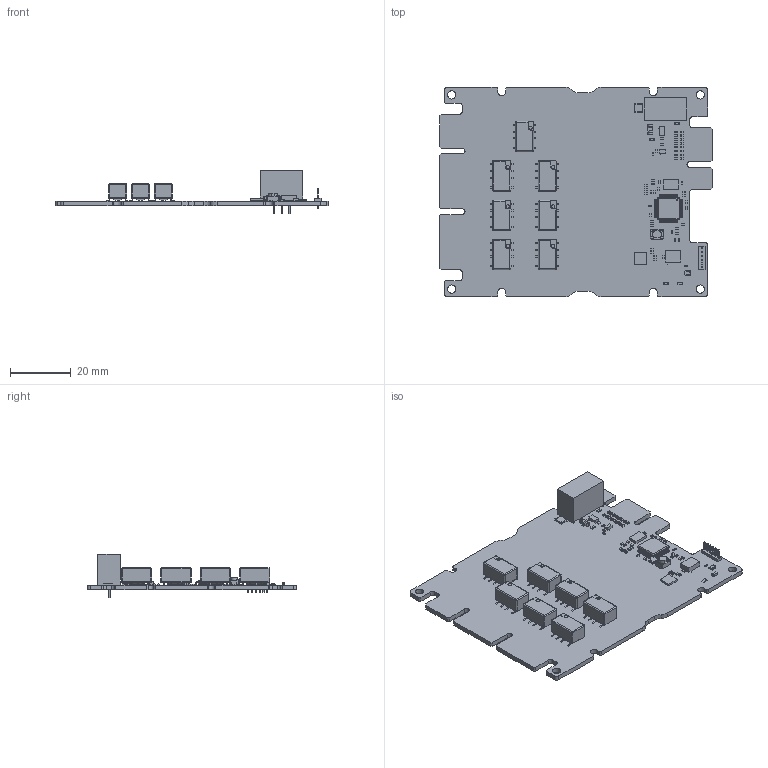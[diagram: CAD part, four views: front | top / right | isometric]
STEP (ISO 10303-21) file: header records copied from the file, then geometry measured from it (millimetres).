
FILE_DESCRIPTION(('Open CASCADE Model'),'2;1');
FILE_NAME('Open CASCADE Shape Model','2026-08-19T11:34:13',('Author'),( 'Open CASCADE'),'Open CASCADE STEP processor 7.5','Open CASCADE 7.5' ,'Unknown');
FILE_SCHEMA(('AUTOMOTIVE_DESIGN { 1 0 10303 214 1 1 1 1 }'));
Length unit declared in the file: millimetre
Products named in the file (204): Open CASCADE STEP translator 7.5 409; Open CASCADE STEP translator 7.5 410; Open CASCADE STEP translator 7.5 411; Open CASCADE STEP translator 7.5 412; Open CASCADE STEP translator 7.5 413; Open CASCADE STEP translator 7.5 414; Open CASCADE STEP translator 7.5 415; Open CASCADE STEP translator 7.5 416; Open CASCADE STEP translator 7.5 417; Open CASCADE STEP translator 7.5 418; Open CASCADE STEP translator 7.5 419; Open CASCADE STEP translator 7.5 420; Open CASCADE STEP translator 7.5 421; Open CASCADE STEP translator 7.5 422; Open CASCADE STEP translator 7.5 423; Open CASCADE STEP translator 7.5 424; Open CASCADE STEP translator 7.5 425; Open CASCADE STEP translator 7.5 426; Open CASCADE STEP translator 7.5 427; Open CASCADE STEP translator 7.5 428; Open CASCADE STEP translator 7.5 429; Open CASCADE STEP translator 7.5 430; Open CASCADE STEP translator 7.5 431; Open CASCADE STEP translator 7.5 432; Open CASCADE STEP translator 7.5 433; Open CASCADE STEP translator 7.5 434; Open CASCADE STEP translator 7.5 435; Open CASCADE STEP translator 7.5 436; Open CASCADE STEP translator 7.5 437; Open CASCADE STEP translator 7.5 438; Open CASCADE STEP translator 7.5 439; Open CASCADE STEP translator 7.5 440; Open CASCADE STEP translator 7.5 441; Open CASCADE STEP translator 7.5 442; Open CASCADE STEP translator 7.5 443; Open CASCADE STEP translator 7.5 444; Open CASCADE STEP translator 7.5 445; Open CASCADE STEP translator 7.5 446; Open CASCADE STEP translator 7.5 447; Open CASCADE STEP translator 7.5 448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
Bounding box: 90 x 69 x 14.2 mm (x, y, z)
Volume: 12446.2 mm3; surface area: 15967.7 mm2
Topology: 271 solids, 271 shells, 3431 faces, 8184 edges, 5385 vertices
Faces by surface type: plane 2916, cylinder 447, sphere 52, torus 8, bspline 4, cone 4
Full cylindrical faces by diameter (mm): 0.08 x1, 0.289 x1, 0.3 x6, 0.5 x3, 0.6 x6, 0.94 x3, 1.4 x1, 1.6 x2, 2.7 x4
Entity records: 106508 total; most frequent: CARTESIAN_POINT 17084, ORIENTED_EDGE 16368, DIRECTION 15948, EDGE_CURVE 8184, LINE 7246, VECTOR 7246, VERTEX_POINT 5385, AXIS2_PLACEMENT_3D 4351
